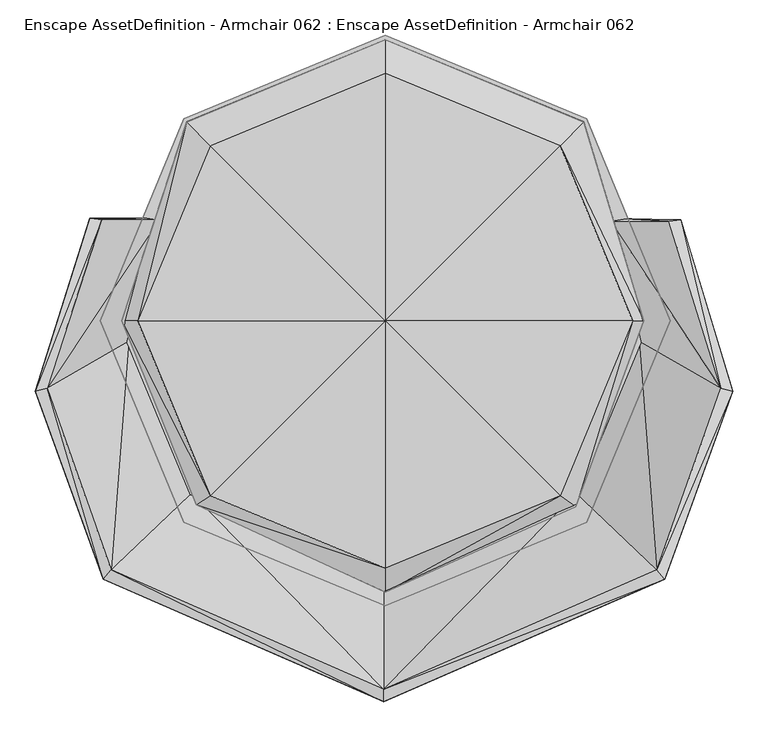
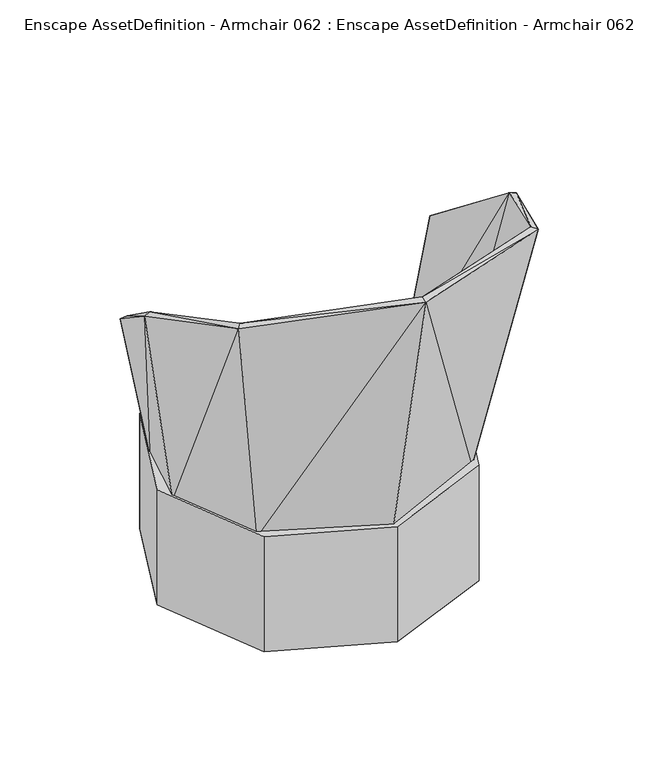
"""IFC4 building model written with IfcOpenShell, lengths in millimetres: geographic element geometry, Enscape AssetDefinition - Armchair 062 : Enscape AssetDefinition - Armchair 062."""

from ifc_helpers import new_model, si_unit, origin, place, context, project, spatial, triangles, source, transform, mapped, element, save


def enscape_assetdefinition_armchair_062_enscape_assetdefinition_27c534bf(model_context):
    return source(origin(), model_context, "Body", "Tessellation", [
        triangles([(269.3910603, -263.8270286, 376.0849657), (366.0976756, 0.0, 224.487642), (366.0976756, 0.0, 376.0849657), (269.3910603, -263.8270286, 224.487642), (247.7552806, -247.7552806, 411.6977629), (281.2686238, 281.2686238, 376.0849657), (281.2686238, 281.2686238, 224.487642), (0.0, 397.7735765, 224.487642), (0.0, 397.7735765, 376.0849657), (0.0, 350.3783953, 411.6977629), (247.7552806, 247.7552806, 411.6977629), (350.3783953, 0.0, 411.6977629), (0.0, -350.3783953, 411.6977629), (-350.3783953, 0.0, 411.6977629), (0.0, 0.0, 426.9024671), (-247.7552806, 247.7552806, 411.6977629), (-281.2686238, 281.2686238, 376.0849657), (-281.2686238, 281.2686238, 224.487642), (-372.9492923, 0.0, 224.487642), (-267.60178, -260.611509, 376.0849657), (-247.7552806, -247.7552806, 411.6977629), (0.0, -384.4133454, 376.0849657), (0.0, -384.4133454, 224.487642), (-372.9492923, 0.0, 376.0849657), (-267.60178, -260.611509, 224.487642), (0.0, 403.8310192, 0.0), (0.0, 403.8310192, 323.454639), (-285.5520833, 285.5520833, 0.0), (-285.5520833, 285.5520833, 323.454639), (0.0, -403.8310192, 323.454639), (-403.8310192, 0.0, 323.454639), (285.5520833, 285.5520833, 323.454639), (285.5520833, 285.5520833, 0.0), (403.8310192, 0.0, 323.454639), (285.5520833, -285.5520833, 0.0), (285.5520833, -285.5520833, 323.454639), (403.8310192, 0.0, 0.0), (0.0, -403.8310192, 0.0), (-285.5520833, -285.5520833, 323.454639), (-285.5520833, -285.5520833, 0.0), (-403.8310192, 0.0, 0.0), (-478.9488905, -95.5423604, 906.4728676), (-320.2121043, 142.5968829, 308.9795051), (-273.9517739, -244.3388467, 308.6446418), (-363.42491, -29.2334423, 308.6446418), (-399.2456523, -366.1246725, 995.0143381), (-388.0859047, -353.1674329, 999.2754879), (-418.3285355, 144.6880979, 719.6856497), (-401.2428778, 142.5968829, 723.4580938), (-338.1835728, 145.7066676, 305.6112514), (-381.1519893, -30.7947977, 304.8335009), (-495.503476, -99.9844131, 902.3762426), (-1.8057228, -522.2979887, 1039.9999643), (-1.8057228, -369.4165501, 308.6446418), (270.3403301, -244.3388467, 308.6446418), (-1.8057228, -386.6079426, 304.7736026), (-286.725758, -256.4337843, 304.5315389), (-1.8057228, -539.4353148, 1035.8916395), (283.1143142, -256.4337843, 304.5315389), (491.8920321, -99.9844131, 902.3762426), (395.6342448, -366.1246725, 995.0143381), (384.4744609, -353.1674329, 999.2754879), (377.5417445, -30.7947977, 304.8335009), (475.3374467, -95.5423604, 906.4728676), (319.1489061, 140.9732538, 308.9372111), (359.8146289, -29.2334423, 308.6446418), (418.5611521, 143.0632879, 719.642193), (401.4743317, 140.9732538, 723.4157999), (337.1203382, 144.0830567, 305.5677584)], [[65, 68, 69], [67, 69, 68], [68, 64, 67], [66, 64, 65], [68, 65, 64], [60, 67, 64], [63, 69, 60], [67, 60, 69], [64, 62, 60], [55, 62, 66], [64, 66, 62], [61, 60, 62], [59, 63, 61], [60, 61, 63], [56, 59, 58], [61, 58, 59], [56, 58, 57], [62, 53, 61], [58, 61, 53], [62, 55, 53], [54, 53, 55], [54, 44, 53], [53, 47, 58], [47, 53, 44], [46, 58, 47], [46, 57, 58], [57, 46, 51], [52, 51, 46], [51, 52, 50], [48, 50, 52], [48, 52, 49], [47, 42, 46], [52, 46, 42], [42, 49, 52], [42, 47, 45], [44, 45, 47], [49, 43, 48], [50, 48, 43], [49, 42, 43], [45, 43, 42], [31, 29, 41], [41, 40, 31], [39, 31, 40], [40, 38, 39], [38, 41, 37], [40, 41, 38], [35, 38, 37], [35, 37, 36], [39, 30, 31], [30, 39, 38], [36, 30, 35], [38, 35, 30], [36, 34, 30], [34, 36, 37], [37, 33, 34], [32, 34, 33], [34, 32, 27], [30, 34, 27], [31, 30, 27], [29, 31, 27], [29, 27, 28], [28, 41, 29], [27, 32, 26], [33, 26, 32], [26, 28, 27], [26, 33, 37], [41, 26, 37], [28, 26, 41], [19, 25, 24], [20, 24, 25], [22, 20, 23], [25, 23, 20], [22, 13, 20], [20, 21, 24], [21, 20, 13], [14, 24, 21], [24, 14, 17], [24, 17, 19], [18, 19, 17], [17, 9, 18], [8, 18, 9], [17, 16, 9], [16, 17, 14], [10, 9, 16], [10, 16, 15], [16, 14, 15], [14, 21, 15], [21, 13, 15], [13, 22, 5], [13, 5, 15], [5, 12, 15], [12, 11, 15], [11, 10, 15], [11, 6, 10], [9, 10, 6], [9, 6, 8], [7, 8, 6], [12, 3, 11], [6, 11, 3], [6, 3, 7], [1, 5, 22], [5, 1, 12], [3, 12, 1], [1, 22, 4], [23, 4, 22], [2, 7, 3], [3, 1, 2], [4, 2, 1]], closed=False),
    ])


if __name__ == "__main__":
    model = new_model("IFC4")
    model_context = context("Model", 3, world=origin())
    ifc_project = project(units=[si_unit("LENGTHUNIT", "METRE", prefix="MILLI")], contexts=[model_context])
    site = spatial("IfcSite", under=ifc_project)
    building = spatial("IfcBuilding", under=site)
    placement = place(None, origin())
    enscape_assetdefinition_armchair_062_enscape_assetdefinition_shape = enscape_assetdefinition_armchair_062_enscape_assetdefinition_27c534bf(model_context)
    element("IfcGeographicElement", 1, ObjectType="Enscape AssetDefinition - Armchair 062 : Enscape AssetDefinition - Armchair 062", at=placement, inside=building, context=model_context, shape_type="MappedRepresentation", body=[
        mapped(enscape_assetdefinition_armchair_062_enscape_assetdefinition_shape, transform((0.0, 0.0, 0.0), x_axis=(1.0, 0.0, 0.0), y_axis=(0.0, 1.0, 0.0), z_axis=(0.0, 0.0, 1.0))),
    ])
    save(model, "model.ifc")
